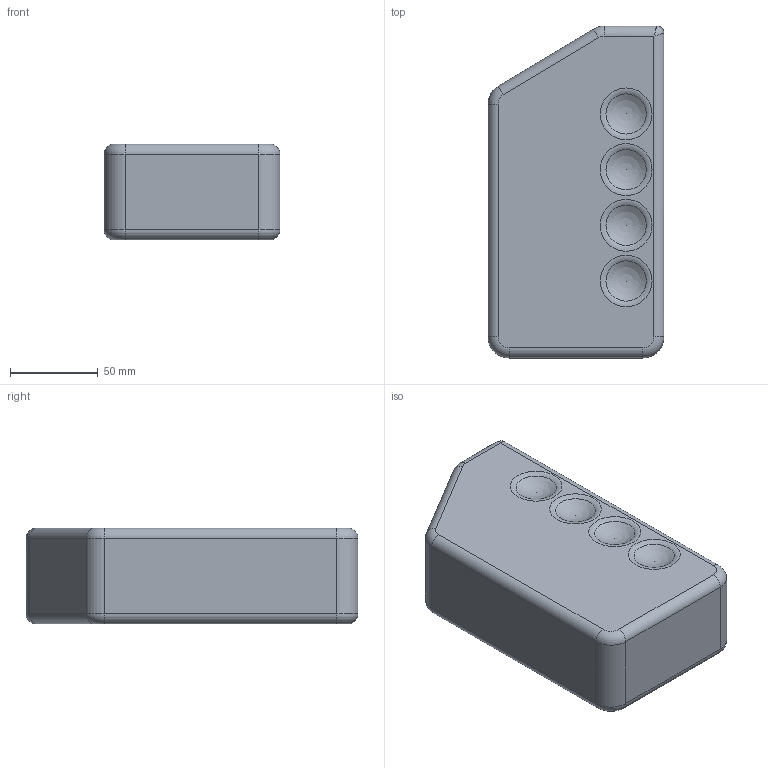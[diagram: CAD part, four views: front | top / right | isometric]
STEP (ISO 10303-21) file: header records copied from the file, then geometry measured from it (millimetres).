
FILE_DESCRIPTION((''),'2;1');
FILE_NAME('C:\My Documents\B2 Design\Skill Builders\Measured Volume\Models\PlasticBottle_net.stp','2010-03-30T14:38:28',('boganb'),(''),'Autodesk Inventor 2011','Autodesk Inventor 2011','');
FILE_SCHEMA(('AUTOMOTIVE_DESIGN { 1 0 10303 214 1 1 1 1 }'));
Length unit declared in the file: inch
Products named in the file (1): PlasticBottle_net
Bounding box: 100.33 x 189.23 x 54.61 mm (x, y, z)
Volume: 949596 mm3; surface area: 62641.3 mm2
Topology: 1 solids, 1 shells, 50 faces, 124 edges, 74 vertices
Faces by surface type: torus 16, cylinder 15, plane 8, sphere 8, bspline 3
Entity records: 3379 total; most frequent: CARTESIAN_POINT 2321, DIRECTION 240, ORIENTED_EDGE 180, AXIS2_PLACEMENT_3D 104, EDGE_CURVE 90, EDGE_LOOP 66, VERTEX_POINT 58, CIRCLE 52
